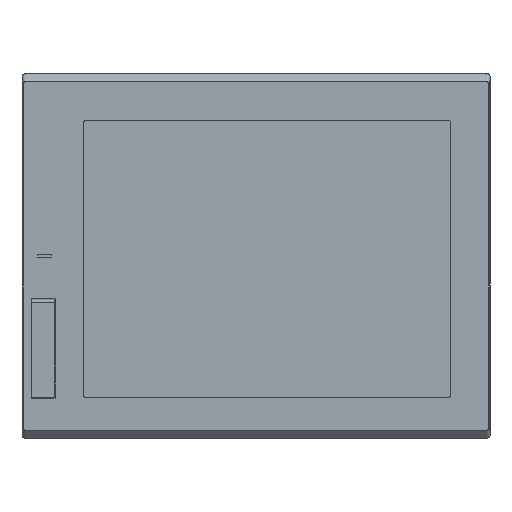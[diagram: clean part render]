
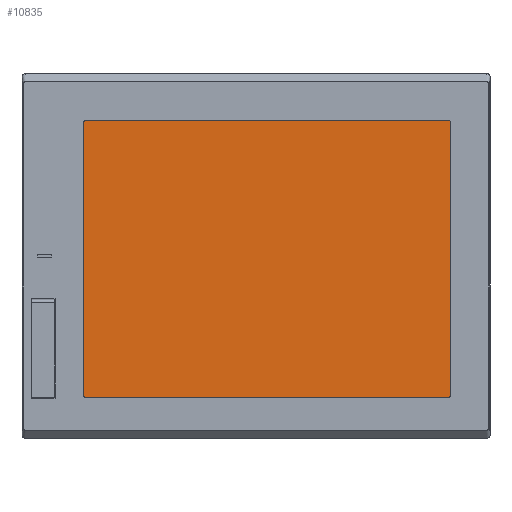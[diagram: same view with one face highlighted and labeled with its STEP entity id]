
A CAD part, top view. The second image highlights one B-rep face of the part: STEP entity #10835.
In plain terms, the highlighted planar face has unit normal (0, 0, 1).
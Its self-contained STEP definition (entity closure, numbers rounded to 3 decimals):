
#1589=CARTESIAN_POINT('',(130.5,90.25,-0.1));
#1590=DIRECTION('',(0.,0.,-1.));
#1591=DIRECTION('',(0.,1.,0.));
#1592=AXIS2_PLACEMENT_3D('',#1589,#1590,#1591);
#1594=DIRECTION('',(0.,-1.,0.));
#1595=VECTOR('',#1594,184.5);
#1596=CARTESIAN_POINT('',(131.5,90.25,-0.1));
#1597=LINE('',#1596,#1595);
#1598=CARTESIAN_POINT('',(130.5,-94.25,-0.1));
#1599=DIRECTION('',(0.,0.,-1.));
#1600=DIRECTION('',(1.,0.,0.));
#1601=AXIS2_PLACEMENT_3D('',#1598,#1599,#1600);
#1603=DIRECTION('',(-1.,0.,0.));
#1604=VECTOR('',#1603,246.);
#1605=CARTESIAN_POINT('',(130.5,-95.25,-0.1));
#1606=LINE('',#1605,#1604);
#1607=CARTESIAN_POINT('',(-115.5,-94.25,-0.1));
#1608=DIRECTION('',(0.,0.,-1.));
#1609=DIRECTION('',(0.,-1.,0.));
#1610=AXIS2_PLACEMENT_3D('',#1607,#1608,#1609);
#1612=DIRECTION('',(0.,1.,0.));
#1613=VECTOR('',#1612,184.5);
#1614=CARTESIAN_POINT('',(-116.5,-94.25,-0.1));
#1615=LINE('',#1614,#1613);
#1616=CARTESIAN_POINT('',(-115.5,90.25,-0.1));
#1617=DIRECTION('',(0.,0.,-1.));
#1618=DIRECTION('',(-1.,0.,0.));
#1619=AXIS2_PLACEMENT_3D('',#1616,#1617,#1618);
#1621=DIRECTION('',(1.,0.,0.));
#1622=VECTOR('',#1621,246.);
#1623=CARTESIAN_POINT('',(-115.5,91.25,-0.1));
#1624=LINE('',#1623,#1622);
#8863=CARTESIAN_POINT('',(131.5,90.25,-0.1));
#8864=CARTESIAN_POINT('',(131.5,-94.25,-0.1));
#8865=VERTEX_POINT('',#8863);
#8866=VERTEX_POINT('',#8864);
#8867=CARTESIAN_POINT('',(130.5,91.25,-0.1));
#8868=VERTEX_POINT('',#8867);
#8869=CARTESIAN_POINT('',(130.5,-95.25,-0.1));
#8870=VERTEX_POINT('',#8869);
#8871=CARTESIAN_POINT('',(-115.5,-95.25,-0.1));
#8872=VERTEX_POINT('',#8871);
#8873=CARTESIAN_POINT('',(-116.5,-94.25,-0.1));
#8874=VERTEX_POINT('',#8873);
#8875=CARTESIAN_POINT('',(-116.5,90.25,-0.1));
#8876=VERTEX_POINT('',#8875);
#8877=CARTESIAN_POINT('',(-115.5,91.25,-0.1));
#8878=VERTEX_POINT('',#8877);
#10813=CARTESIAN_POINT('',(7.5,-2.,-0.1));
#10814=DIRECTION('',(0.,0.,1.));
#10815=DIRECTION('',(1.,0.,0.));
#10816=AXIS2_PLACEMENT_3D('',#10813,#10814,#10815);
#10817=PLANE('',#10816);
#10819=ORIENTED_EDGE('',*,*,#10818,.T.);
#10820=ORIENTED_EDGE('',*,*,#10803,.T.);
#10822=ORIENTED_EDGE('',*,*,#10821,.T.);
#10824=ORIENTED_EDGE('',*,*,#10823,.T.);
#10826=ORIENTED_EDGE('',*,*,#10825,.T.);
#10828=ORIENTED_EDGE('',*,*,#10827,.T.);
#10830=ORIENTED_EDGE('',*,*,#10829,.T.);
#10832=ORIENTED_EDGE('',*,*,#10831,.T.);
#10833=EDGE_LOOP('',(#10819,#10820,#10822,#10824,#10826,#10828,#10830,#10832));
#10834=FACE_OUTER_BOUND('',#10833,.F.);
#10835=ADVANCED_FACE('',(#10834),#10817,.T.);
#1593=CIRCLE('',#1592,1.);
#1602=CIRCLE('',#1601,1.);
#1611=CIRCLE('',#1610,1.);
#1620=CIRCLE('',#1619,1.);
#10803=EDGE_CURVE('',#8865,#8866,#1597,.T.);
#10818=EDGE_CURVE('',#8868,#8865,#1593,.T.);
#10821=EDGE_CURVE('',#8866,#8870,#1602,.T.);
#10823=EDGE_CURVE('',#8870,#8872,#1606,.T.);
#10825=EDGE_CURVE('',#8872,#8874,#1611,.T.);
#10827=EDGE_CURVE('',#8874,#8876,#1615,.T.);
#10829=EDGE_CURVE('',#8876,#8878,#1620,.T.);
#10831=EDGE_CURVE('',#8878,#8868,#1624,.T.);
